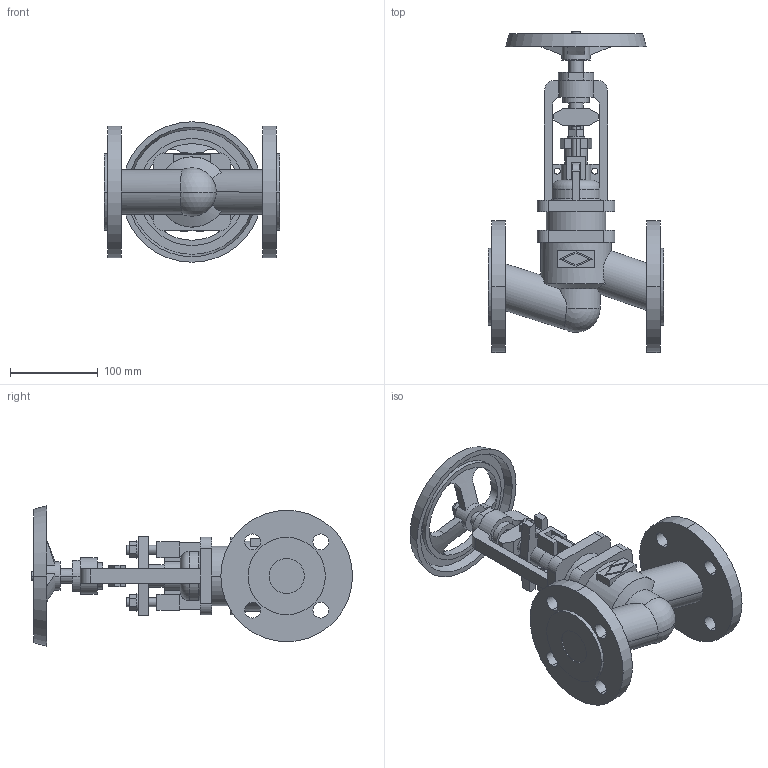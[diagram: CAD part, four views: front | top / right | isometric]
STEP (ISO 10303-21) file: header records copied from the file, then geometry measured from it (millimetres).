
FILE_DESCRIPTION(('OneSpaceDesigner STEP Export'),'2;1');
FILE_NAME('c000003750.stp','2009-06-16T10:59:13',(''),(''),'OneSpace Designer STEP processor for AP214 (Solid Model)','OneSpace Modeling 15.50B 03-Nov-2007 (C) CoCreate Software GmbH','');
FILE_SCHEMA(('AUTOMOTIVE_DESIGN { 1 0 10303 214 1 1 1 1 }'));
Length unit declared in the file: millimetre
Products named in the file (1): 1
Bounding box: 200 x 365.9 x 160 mm (x, y, z)
Volume: 1789981.1 mm3; surface area: 251427.3 mm2
Topology: 1 solids, 1 shells, 289 faces, 757 edges, 496 vertices
Faces by surface type: plane 148, cylinder 111, cone 20, torus 8, sphere 2
Entity records: 11446 total; most frequent: CARTESIAN_POINT 2406, ORIENTED_EDGE 1510, DIRECTION 1243, EDGE_CURVE 755, VERTEX_POINT 496, VECTOR 427, LINE 427, AXIS2_PLACEMENT_3D 408
